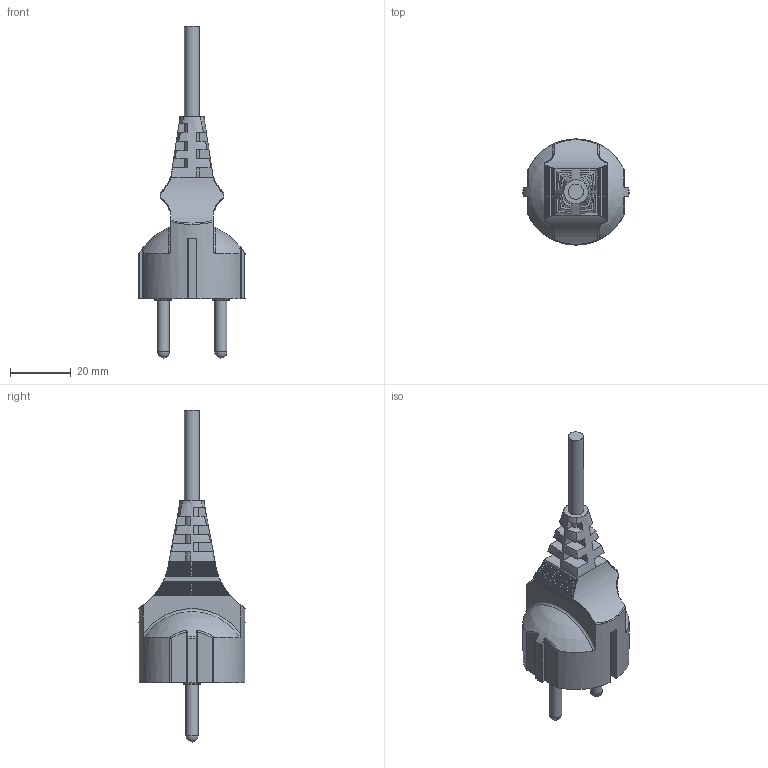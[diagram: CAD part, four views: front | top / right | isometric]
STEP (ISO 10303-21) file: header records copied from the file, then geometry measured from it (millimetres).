
FILE_DESCRIPTION((''),'2;1');
FILE_NAME('C:\Users\MHerrwerth\Documents\Inventor-Privat\Schuko - gerade.stp','2014-03-20T12:55:48',('MHerrwerth'),(''),'Autodesk Inventor 2013','Autodesk Inventor 2013','');
FILE_SCHEMA(('AUTOMOTIVE_DESIGN { 1 0 10303 214 1 1 1 1 }'));
Length unit declared in the file: millimetre
Products named in the file (1): Schuko - gerade
Bounding box: 34.99 x 34.99 x 109.5 mm (x, y, z)
Volume: 27927 mm3; surface area: 11236.3 mm2
Topology: 4 solids, 4 shells, 676 faces, 1633 edges, 923 vertices
Faces by surface type: bspline 248, plane 190, cylinder 132, sphere 78, torus 28
Full cylindrical faces by diameter (mm): 4 x5, 4.98 x1, 5 x1, 5.5 x2
Entity records: 26767 total; most frequent: CARTESIAN_POINT 11485, ORIENTED_EDGE 3152, DIRECTION 2885, EDGE_CURVE 1576, AXIS2_PLACEMENT_3D 1213, VERTEX_POINT 912, EDGE_LOOP 708, FACE_OUTER_BOUND 676
